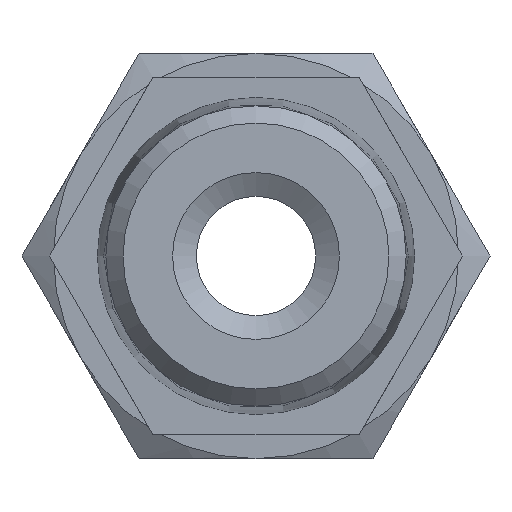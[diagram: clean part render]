
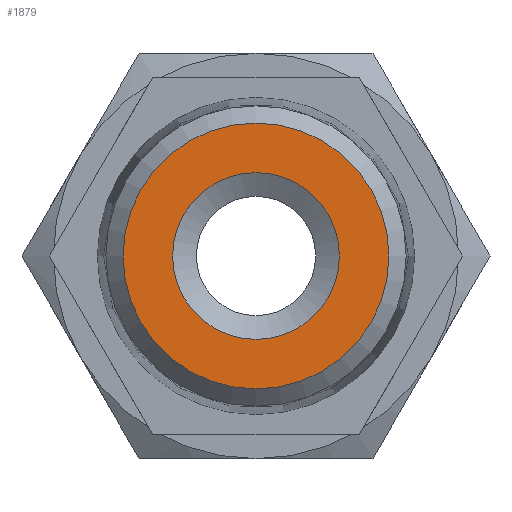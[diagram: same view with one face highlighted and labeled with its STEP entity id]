
A CAD part, front view. The second image highlights one B-rep face of the part: STEP entity #1879.
In plain terms, the highlighted planar face has unit normal (0, -1, 0).
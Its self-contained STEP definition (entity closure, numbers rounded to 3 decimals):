
#1725=CARTESIAN_POINT('',(3.5,0.,0.0));
#1726=VERTEX_POINT('',#1725);
#1727=CARTESIAN_POINT('',(0.,0.,0.0));
#1728=DIRECTION('',(0.,1.0,0.0));
#1729=DIRECTION('',(1.0,0.,0.0));
#1730=AXIS2_PLACEMENT_3D('',#1727,#1728,#1729);
#1731=CIRCLE('',#1730,3.5);
#1732=EDGE_CURVE('',#1726,#1726,#1731,.T.);
#1860=CARTESIAN_POINT('',(2.787,0.,0.0));
#1861=DIRECTION('',(0.,-1.0,0.0));
#1862=DIRECTION('',(0.0,0.0,-1.0));
#1863=AXIS2_PLACEMENT_3D('',#1860,#1861,#1862);
#1864=PLANE('',#1863);
#1865=CARTESIAN_POINT('',(5.575,0.,0.0));
#1866=VERTEX_POINT('',#1865);
#1867=CARTESIAN_POINT('',(0.,0.,0.0));
#1868=DIRECTION('',(0.,-1.0,0.0));
#1869=DIRECTION('',(1.0,0.,0.0));
#1870=AXIS2_PLACEMENT_3D('',#1867,#1868,#1869);
#1871=CIRCLE('',#1870,5.575);
#1872=EDGE_CURVE('',#1866,#1866,#1871,.T.);
#1873=ORIENTED_EDGE('',*,*,#1872,.T.);
#1874=EDGE_LOOP('',(#1873));
#1875=FACE_OUTER_BOUND('',#1874,.T.);
#1876=ORIENTED_EDGE('',*,*,#1732,.T.);
#1877=EDGE_LOOP('',(#1876));
#1878=FACE_BOUND('',#1877,.T.);
#1879=ADVANCED_FACE('',(#1875,#1878),#1864,.T.);
